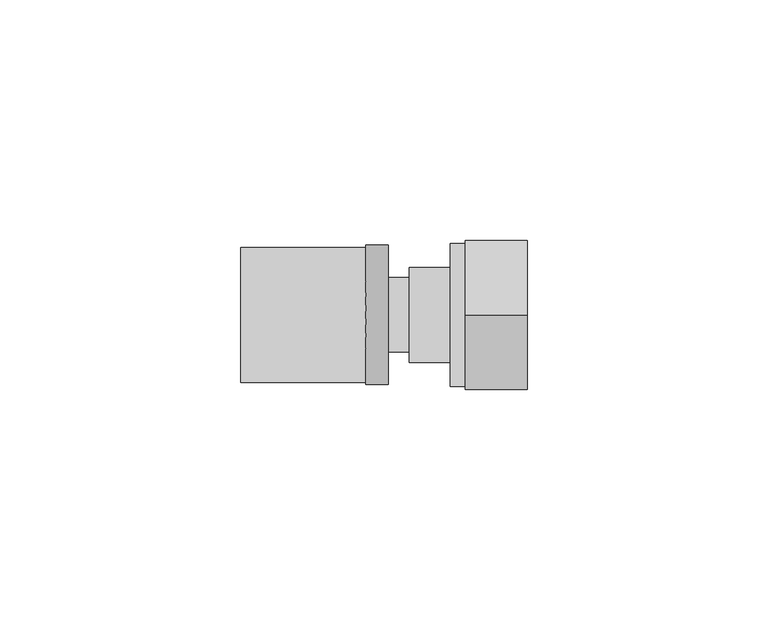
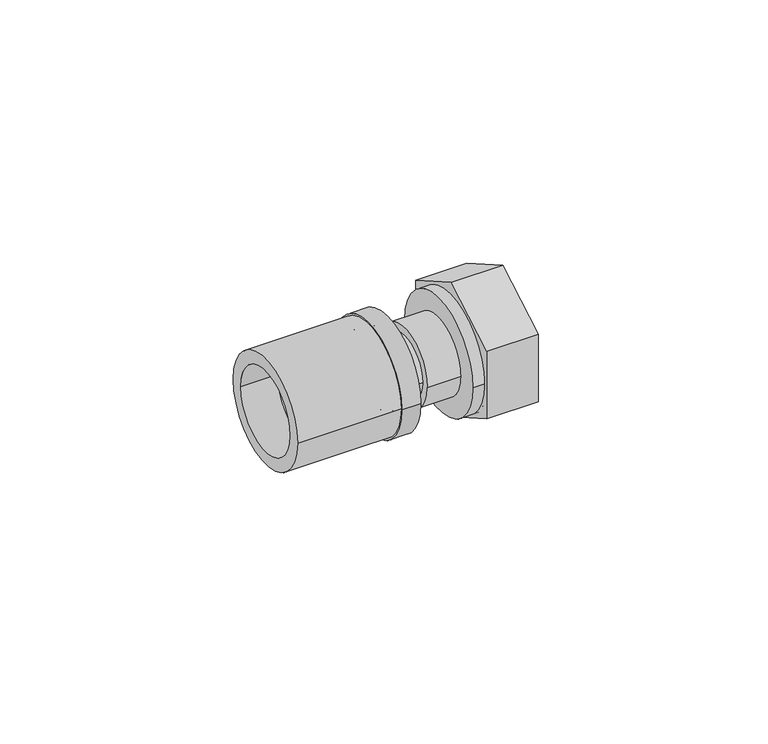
"""IFC4 building model written with IfcOpenShell, lengths in millimetres: pipe fitting geometry, FASTLOC_Adapter with union nut LX : FSL A union nut CZ."""

from ifc_helpers import new_model, si_unit, point, frame, origin, origin_2d, place, context, project, spatial, polyline, circle_curve, trimmed, segment, composite_curve, outline, extrude, source, transform, mapped, element, save
from ifc_brep_helpers import plane_surface, cylinder_surface, revolved_surface, advanced_brep


def pipe_fitting_c8bca06d(model_context):
    return source(origin(), model_context, "Body", "SolidModel", [
        extrude(outline(composite_curve([segment(trimmed(circle_curve(origin_2d(), 14.0), [point((14.0, 0.0))], [point((-14.0, 0.0))], False, "CARTESIAN"), True, "CONTINUOUS"), segment(trimmed(circle_curve(origin_2d(), 14.0), [point((-14.0, 0.0))], [point((14.0, 0.0))], False, "CARTESIAN"), True, "CONTINUOUS")], self_intersect=False), holes=[composite_curve([segment(trimmed(circle_curve(origin_2d(), 10.7), [point((10.7, 0.0))], [point((-10.7, 0.0))], True, "CARTESIAN"), True, "CONTINUOUS"), segment(trimmed(circle_curve(origin_2d(), 10.7), [point((-10.7, 0.0))], [point((10.7, 0.0))], True, "CARTESIAN"), True, "CONTINUOUS")], self_intersect=False)]), frame((-35.0, 0.0, 0.0), z_axis=(1.0, 0.0, 0.0), x_axis=(0.0, 1.0, 0.0)), (0.0, 0.0, 1.0), 26.0),
        advanced_brep(
        [(-9.0, -14.5, 0.0), (-9.0, 14.5, 0.0), (-4.3, 14.5, 0.0), (-4.3, -14.5, 0.0), (-26.0, -11.85, 0.0), (-26.0, 11.85, 0.0), (-9.0, 11.85, 0.0), (-9.0, -11.85, 0.0), (-4.3, -10.15, 0.0), (-4.3, 10.15, 0.0), (-26.0, 10.15, 0.0), (-26.0, -10.15, 0.0)],
        [
            (0, 1, circle_curve(frame((-9.0, 0.0, 0.0), z_axis=(1.0, 0.0, 0.0), x_axis=(0.0, 1.0, 0.0)), 14.5)),
            (1, 2),
            (2, 3, circle_curve(frame((-4.3, 0.0, 0.0), z_axis=(-1.0, 0.0, 0.0), x_axis=(0.0, 1.0, 0.0)), 14.5)),
            (3, 0),
            (4, 5, circle_curve(frame((-26.0, 0.0, 0.0), z_axis=(1.0, 0.0, 0.0), x_axis=(0.0, 1.0, 0.0)), 11.85)),
            (5, 6),
            (6, 7, circle_curve(frame((-9.0, 0.0, 0.0), z_axis=(-1.0, 0.0, 0.0), x_axis=(0.0, 1.0, 0.0)), 11.85)),
            (7, 4),
            (8, 9, circle_curve(frame((-4.3, 0.0, 0.0), z_axis=(1.0, 0.0, 0.0), x_axis=(0.0, 1.0, 0.0)), 10.15)),
            (9, 10),
            (10, 11, circle_curve(frame((-26.0, 0.0, 0.0), z_axis=(-1.0, 0.0, 0.0), x_axis=(0.0, 1.0, 0.0)), 10.15)),
            (11, 8),
            (1, 0, circle_curve(frame((-9.0, 0.0, 0.0), z_axis=(1.0, 0.0, 0.0), x_axis=(0.0, -1.0, 0.0)), 14.5)),
            (3, 2, circle_curve(frame((-4.3, 0.0, 0.0), z_axis=(-1.0, 0.0, 0.0), x_axis=(0.0, -1.0, 0.0)), 14.5)),
            (6, 7, circle_curve(frame((-9.0, 0.0, 0.0), z_axis=(1.0, 0.0, 0.0), x_axis=(0.0, -1.0, 0.0)), 11.85)),
            (5, 4, circle_curve(frame((-26.0, 0.0, 0.0), z_axis=(1.0, 0.0, 0.0), x_axis=(0.0, -1.0, 0.0)), 11.85)),
            (10, 11, circle_curve(frame((-26.0, 0.0, 0.0), z_axis=(1.0, 0.0, 0.0), x_axis=(0.0, -1.0, 0.0)), 10.15)),
            (9, 8, circle_curve(frame((-4.3, 0.0, 0.0), z_axis=(1.0, 0.0, 0.0), x_axis=(0.0, -1.0, 0.0)), 10.15)),
        ],
        [
            cylinder_surface(frame((-4.3, 0.0, 0.0), z_axis=(-1.0, 0.0, 0.0), x_axis=(0.0, 1.0, 0.0)), 14.5),
            cylinder_surface(frame((-4.3, 0.0, 0.0), z_axis=(-1.0, 0.0, 0.0), x_axis=(0.0, 1.0, 0.0)), 11.85),
            revolved_surface(polyline([(-26.0, 10.15, 0.0), (-4.3, 10.15, 0.0)]), (-4.3, 0.0, 0.0), (-1.0, 0.0, 0.0)),
            cylinder_surface(frame((-4.3, 0.0, 0.0), z_axis=(-1.0, 0.0, 0.0), x_axis=(0.0, -1.0, 0.0)), 14.5),
            plane_surface(frame((-9.0, 0.0, 0.0), z_axis=(-1.0, 0.0, 0.0), x_axis=(0.0, -1.0, 0.0))),
            cylinder_surface(frame((-4.3, 0.0, 0.0), z_axis=(-1.0, 0.0, 0.0), x_axis=(0.0, -1.0, 0.0)), 11.85),
            plane_surface(frame((-26.0, 0.0, 0.0), z_axis=(-1.0, 0.0, 0.0), x_axis=(0.0, -1.0, 0.0))),
            revolved_surface(polyline([(-26.0, -10.15, 0.0), (-4.3, -10.15, 0.0)]), (-4.3, 0.0, 0.0), (-1.0, 0.0, 0.0)),
            plane_surface(frame((-4.3, 0.0, 0.0), z_axis=(1.0, 0.0, 0.0), x_axis=(0.0, -1.0, 0.0))),
        ],
        [
            (0, [[1, 2, 3, 4]]),
            (1, [[5, 6, 7, 8]]),
            (2, [[9, 10, 11, 12]]),
            (3, [[13, -4, 14, -2]]),
            (4, [[-13, -1], [15, -7]]),
            (5, [[16, -8, -15, -6]]),
            (6, [[-16, -5], [17, -11]]),
            (7, [[18, -12, -17, -10]]),
            (8, [[-14, -3], [-18, -9]]),
        ],
    ),
        advanced_brep(
        [(-9.0, 7.75, 0.0), (-9.0, -7.75, 0.0), (-26.5, -7.75, 0.0), (-26.5, 7.75, 0.0), (-6.3, 8.8, 0.0), (-6.3, -8.8, 0.0), (-9.0, -8.8, 0.0), (-9.0, 8.8, 0.0), (0.0, 7.75, 0.0), (0.0, -7.75, 0.0), (-6.3, -7.75, 0.0), (-6.3, 7.75, 0.0), (-26.5, 5.75, 0.0), (-26.5, -5.75, 0.0), (0.0, -5.75, 0.0), (0.0, 5.75, 0.0)],
        [
            (0, 1, circle_curve(frame((-9.0, 0.0, 0.0), z_axis=(-1.0, 0.0, 0.0), x_axis=(0.0, -1.0, 0.0)), 7.75)),
            (1, 2),
            (2, 3, circle_curve(frame((-26.5, 0.0, 0.0), z_axis=(1.0, 0.0, 0.0), x_axis=(0.0, -1.0, 0.0)), 7.75)),
            (3, 0),
            (4, 5, circle_curve(frame((-6.3, 0.0, 0.0), z_axis=(-1.0, 0.0, 0.0), x_axis=(0.0, -1.0, 0.0)), 8.8)),
            (5, 6),
            (6, 7, circle_curve(frame((-9.0, 0.0, 0.0), z_axis=(1.0, 0.0, 0.0), x_axis=(0.0, -1.0, 0.0)), 8.8)),
            (7, 4),
            (8, 9, circle_curve(frame((0.0, 0.0, 0.0), z_axis=(-1.0, 0.0, 0.0), x_axis=(0.0, -1.0, 0.0)), 7.75)),
            (9, 10),
            (10, 11, circle_curve(frame((-6.3, 0.0, 0.0), z_axis=(1.0, 0.0, 0.0), x_axis=(0.0, -1.0, 0.0)), 7.75)),
            (11, 8),
            (12, 13, circle_curve(frame((-26.5, 0.0, 0.0), z_axis=(-1.0, 0.0, 0.0), x_axis=(0.0, -1.0, 0.0)), 5.75)),
            (13, 14),
            (14, 15, circle_curve(frame((0.0, 0.0, 0.0), z_axis=(1.0, 0.0, 0.0), x_axis=(0.0, -1.0, 0.0)), 5.75)),
            (15, 12),
            (2, 3, circle_curve(frame((-26.5, 0.0, 0.0), z_axis=(-1.0, 0.0, 0.0), x_axis=(0.0, 1.0, 0.0)), 7.75)),
            (12, 13, circle_curve(frame((-26.5, 0.0, 0.0), z_axis=(1.0, 0.0, 0.0), x_axis=(0.0, 1.0, 0.0)), 5.75)),
            (1, 0, circle_curve(frame((-9.0, 0.0, 0.0), z_axis=(-1.0, 0.0, 0.0), x_axis=(0.0, 1.0, 0.0)), 7.75)),
            (6, 7, circle_curve(frame((-9.0, 0.0, 0.0), z_axis=(-1.0, 0.0, 0.0), x_axis=(0.0, 1.0, 0.0)), 8.8)),
            (5, 4, circle_curve(frame((-6.3, 0.0, 0.0), z_axis=(-1.0, 0.0, 0.0), x_axis=(0.0, 1.0, 0.0)), 8.8)),
            (10, 11, circle_curve(frame((-6.3, 0.0, 0.0), z_axis=(-1.0, 0.0, 0.0), x_axis=(0.0, 1.0, 0.0)), 7.75)),
            (9, 8, circle_curve(frame((0.0, 0.0, 0.0), z_axis=(-1.0, 0.0, 0.0), x_axis=(0.0, 1.0, 0.0)), 7.75)),
            (14, 15, circle_curve(frame((0.0, 0.0, 0.0), z_axis=(-1.0, 0.0, 0.0), x_axis=(0.0, 1.0, 0.0)), 5.75)),
        ],
        [
            cylinder_surface(frame((0.0, 0.0, 0.0), z_axis=(1.0, 0.0, 0.0), x_axis=(0.0, -1.0, 0.0)), 7.75),
            cylinder_surface(frame((0.0, 0.0, 0.0), z_axis=(1.0, 0.0, 0.0), x_axis=(0.0, -1.0, 0.0)), 8.8),
            revolved_surface(polyline([(0.0, -5.75, 0.0), (-26.5, -5.75, 0.0)]), (0.0, 0.0, 0.0), (1.0, 0.0, 0.0)),
            plane_surface(frame((-26.5, 0.0, 0.0), z_axis=(-1.0, 0.0, 0.0), x_axis=(0.0, 1.0, 0.0))),
            cylinder_surface(frame((0.0, 0.0, 0.0), z_axis=(1.0, 0.0, 0.0), x_axis=(0.0, 1.0, 0.0)), 7.75),
            plane_surface(frame((-9.0, 0.0, 0.0), z_axis=(-1.0, 0.0, 0.0), x_axis=(0.0, 1.0, 0.0))),
            cylinder_surface(frame((0.0, 0.0, 0.0), z_axis=(1.0, 0.0, 0.0), x_axis=(0.0, 1.0, 0.0)), 8.8),
            plane_surface(frame((-6.3, 0.0, 0.0), z_axis=(1.0, 0.0, 0.0), x_axis=(0.0, 1.0, 0.0))),
            plane_surface(frame((0.0, 0.0, 0.0), z_axis=(1.0, 0.0, 0.0), x_axis=(0.0, 1.0, 0.0))),
            revolved_surface(polyline([(0.0, 5.75, 0.0), (-26.5, 5.75, 0.0)]), (0.0, 0.0, 0.0), (1.0, 0.0, 0.0)),
        ],
        [
            (0, [[1, 2, 3, 4]]),
            (1, [[5, 6, 7, 8]]),
            (0, [[9, 10, 11, 12]]),
            (2, [[13, 14, 15, 16]]),
            (3, [[17, -3], [18, -13]]),
            (4, [[19, -4, -17, -2]]),
            (5, [[20, -7], [-19, -1]]),
            (6, [[21, -8, -20, -6]]),
            (7, [[-21, -5], [22, -11]]),
            (4, [[23, -12, -22, -10]]),
            (8, [[-23, -9], [24, -15]]),
            (9, [[-18, -16, -24, -14]]),
        ],
    ),
        extrude(outline(polyline([(0.0, -17.8978583), (-15.5, -8.9489292), (-15.5, 8.9489292), (0.0, 17.8978583), (15.5, 8.9489292), (15.5, -8.9489292), (0.0, -17.8978583)]), holes=[composite_curve([segment(trimmed(circle_curve(origin_2d(), 12.0), [point((-12.0, 0.0))], [point((12.0, 0.0))], True, "CARTESIAN"), True, "CONTINUOUS"), segment(trimmed(circle_curve(origin_2d(), 12.0), [point((12.0, 0.0))], [point((-12.0, 0.0))], True, "CARTESIAN"), True, "CONTINUOUS")], self_intersect=False)]), frame((11.7, 0.0, 0.0), z_axis=(1.0, 0.0, 0.0), x_axis=(0.0, 1.0, 0.0)), (0.0, 0.0, 1.0), 12.9),
        advanced_brep(
        [(24.6, 14.9, 0.0), (24.6, -14.9, 0.0), (8.6, -14.9, 0.0), (8.6, 14.9, 0.0), (12.1, 12.0, 0.0), (12.1, -12.0, 0.0), (24.6, -12.0, 0.0), (24.6, 12.0, 0.0), (8.6, 8.5, 0.0), (8.6, -8.5, 0.0), (12.1, -8.5, 0.0), (12.1, 8.5, 0.0)],
        [
            (0, 1, circle_curve(frame((24.6, 0.0, 0.0), z_axis=(-1.0, 0.0, 0.0), x_axis=(0.0, -1.0, 0.0)), 14.9)),
            (1, 2),
            (2, 3, circle_curve(frame((8.6, 0.0, 0.0), z_axis=(1.0, 0.0, 0.0), x_axis=(0.0, -1.0, 0.0)), 14.9)),
            (3, 0),
            (4, 5, circle_curve(frame((12.1, 0.0, 0.0), z_axis=(-1.0, 0.0, 0.0), x_axis=(0.0, -1.0, 0.0)), 12.0)),
            (5, 6),
            (6, 7, circle_curve(frame((24.6, 0.0, 0.0), z_axis=(1.0, 0.0, 0.0), x_axis=(0.0, -1.0, 0.0)), 12.0)),
            (7, 4),
            (8, 9, circle_curve(frame((8.6, 0.0, 0.0), z_axis=(-1.0, 0.0, 0.0), x_axis=(0.0, -1.0, 0.0)), 8.5)),
            (9, 10),
            (10, 11, circle_curve(frame((12.1, 0.0, 0.0), z_axis=(1.0, 0.0, 0.0), x_axis=(0.0, -1.0, 0.0)), 8.5)),
            (11, 8),
            (1, 0, circle_curve(frame((24.6, 0.0, 0.0), z_axis=(-1.0, 0.0, 0.0), x_axis=(0.0, 1.0, 0.0)), 14.9)),
            (3, 2, circle_curve(frame((8.6, 0.0, 0.0), z_axis=(1.0, 0.0, 0.0), x_axis=(0.0, 1.0, 0.0)), 14.9)),
            (6, 7, circle_curve(frame((24.6, 0.0, 0.0), z_axis=(-1.0, 0.0, 0.0), x_axis=(0.0, 1.0, 0.0)), 12.0)),
            (5, 4, circle_curve(frame((12.1, 0.0, 0.0), z_axis=(-1.0, 0.0, 0.0), x_axis=(0.0, 1.0, 0.0)), 12.0)),
            (10, 11, circle_curve(frame((12.1, 0.0, 0.0), z_axis=(-1.0, 0.0, 0.0), x_axis=(0.0, 1.0, 0.0)), 8.5)),
            (9, 8, circle_curve(frame((8.6, 0.0, 0.0), z_axis=(-1.0, 0.0, 0.0), x_axis=(0.0, 1.0, 0.0)), 8.5)),
        ],
        [
            cylinder_surface(frame((0.0, 0.0, 0.0), z_axis=(1.0, 0.0, 0.0), x_axis=(0.0, -1.0, 0.0)), 14.9),
            revolved_surface(polyline([(24.6, -12.0, 0.0), (12.1, -12.0, 0.0)]), (0.0, 0.0, 0.0), (1.0, 0.0, 0.0)),
            revolved_surface(polyline([(12.1, -8.5, 0.0), (8.6, -8.5, 0.0)]), (0.0, 0.0, 0.0), (1.0, 0.0, 0.0)),
            cylinder_surface(frame((0.0, 0.0, 0.0), z_axis=(1.0, 0.0, 0.0), x_axis=(0.0, 1.0, 0.0)), 14.9),
            plane_surface(frame((24.6, 0.0, 0.0), z_axis=(1.0, 0.0, 0.0), x_axis=(0.0, 1.0, 0.0))),
            revolved_surface(polyline([(24.6, 12.0, 0.0), (12.1, 12.0, 0.0)]), (0.0, 0.0, 0.0), (1.0, 0.0, 0.0)),
            plane_surface(frame((12.1, 0.0, 0.0), z_axis=(1.0, 0.0, 0.0), x_axis=(0.0, 1.0, 0.0))),
            revolved_surface(polyline([(12.1, 8.5, 0.0), (8.6, 8.5, 0.0)]), (0.0, 0.0, 0.0), (1.0, 0.0, 0.0)),
            plane_surface(frame((8.6, 0.0, 0.0), z_axis=(-1.0, 0.0, 0.0), x_axis=(0.0, 1.0, 0.0))),
        ],
        [
            (0, [[1, 2, 3, 4]]),
            (1, [[5, 6, 7, 8]]),
            (2, [[9, 10, 11, 12]]),
            (3, [[13, -4, 14, -2]]),
            (4, [[-13, -1], [15, -7]]),
            (5, [[16, -8, -15, -6]]),
            (6, [[-16, -5], [17, -11]]),
            (7, [[18, -12, -17, -10]]),
            (8, [[-14, -3], [-18, -9]]),
        ],
    ),
        advanced_brep(
        [(12.0, 9.9, 0.0), (12.0, -9.9, 0.0), (0.0, -9.9, 0.0), (0.0, 9.9, 0.0), (14.0, 14.0, 0.0), (14.0, -14.0, 0.0), (12.0, -14.0, 0.0), (12.0, 14.0, 0.0), (1.4730817, 8.15, 0.0), (1.4730817, -8.15, 0.0), (14.0, -8.15, 0.0), (14.0, 8.15, 0.0), (0.0, 5.9764556, 0.0), (0.0, -5.9764556, 0.0), (1.4730817, -5.9764556, 0.0), (1.4730817, 5.9764556, 0.0)],
        [
            (0, 1, circle_curve(frame((12.0, 0.0, 0.0), z_axis=(-1.0, 0.0, 0.0), x_axis=(0.0, -1.0, 0.0)), 9.9)),
            (1, 2),
            (2, 3, circle_curve(frame((0.0, 0.0, 0.0), z_axis=(1.0, 0.0, 0.0), x_axis=(0.0, -1.0, 0.0)), 9.9)),
            (3, 0),
            (4, 5, circle_curve(frame((14.0, 0.0, 0.0), z_axis=(-1.0, 0.0, 0.0), x_axis=(0.0, -1.0, 0.0)), 14.0)),
            (5, 6),
            (6, 7, circle_curve(frame((12.0, 0.0, 0.0), z_axis=(1.0, 0.0, 0.0), x_axis=(0.0, -1.0, 0.0)), 14.0)),
            (7, 4),
            (8, 9, circle_curve(frame((1.4730817, 0.0, 0.0), z_axis=(-1.0, 0.0, 0.0), x_axis=(0.0, -1.0, 0.0)), 8.15)),
            (9, 10),
            (10, 11, circle_curve(frame((14.0, 0.0, 0.0), z_axis=(1.0, 0.0, 0.0), x_axis=(0.0, -1.0, 0.0)), 8.15)),
            (11, 8),
            (12, 13, circle_curve(frame((0.0, 0.0, 0.0), z_axis=(-1.0, 0.0, 0.0), x_axis=(0.0, -1.0, 0.0)), 5.9764556)),
            (13, 14),
            (14, 15, circle_curve(frame((1.4730817, 0.0, 0.0), z_axis=(1.0, 0.0, 0.0), x_axis=(0.0, -1.0, 0.0)), 5.9764556)),
            (15, 12),
            (2, 3, circle_curve(frame((0.0, 0.0, 0.0), z_axis=(-1.0, 0.0, 0.0), x_axis=(0.0, 1.0, 0.0)), 9.9)),
            (12, 13, circle_curve(frame((0.0, 0.0, 0.0), z_axis=(1.0, 0.0, 0.0), x_axis=(0.0, 1.0, 0.0)), 5.9764556)),
            (1, 0, circle_curve(frame((12.0, 0.0, 0.0), z_axis=(-1.0, 0.0, 0.0), x_axis=(0.0, 1.0, 0.0)), 9.9)),
            (6, 7, circle_curve(frame((12.0, 0.0, 0.0), z_axis=(-1.0, 0.0, 0.0), x_axis=(0.0, 1.0, 0.0)), 14.0)),
            (5, 4, circle_curve(frame((14.0, 0.0, 0.0), z_axis=(-1.0, 0.0, 0.0), x_axis=(0.0, 1.0, 0.0)), 14.0)),
            (10, 11, circle_curve(frame((14.0, 0.0, 0.0), z_axis=(-1.0, 0.0, 0.0), x_axis=(0.0, 1.0, 0.0)), 8.15)),
            (9, 8, circle_curve(frame((1.4730817, 0.0, 0.0), z_axis=(-1.0, 0.0, 0.0), x_axis=(0.0, 1.0, 0.0)), 8.15)),
            (14, 15, circle_curve(frame((1.4730817, 0.0, 0.0), z_axis=(-1.0, 0.0, 0.0), x_axis=(0.0, 1.0, 0.0)), 5.9764556)),
        ],
        [
            cylinder_surface(frame((0.0, 0.0, 0.0), z_axis=(1.0, 0.0, 0.0), x_axis=(0.0, -1.0, 0.0)), 9.9),
            cylinder_surface(frame((0.0, 0.0, 0.0), z_axis=(1.0, 0.0, 0.0), x_axis=(0.0, -1.0, 0.0)), 14.0),
            revolved_surface(polyline([(14.0, -8.15, 0.0), (1.4730817, -8.15, 0.0)]), (0.0, 0.0, 0.0), (1.0, 0.0, 0.0)),
            revolved_surface(polyline([(1.4730817, -5.9764556, 0.0), (0.0, -5.9764556, 0.0)]), (0.0, 0.0, 0.0), (1.0, 0.0, 0.0)),
            plane_surface(frame((0.0, 0.0, 0.0), z_axis=(-1.0, 0.0, 0.0), x_axis=(0.0, 1.0, 0.0))),
            cylinder_surface(frame((0.0, 0.0, 0.0), z_axis=(1.0, 0.0, 0.0), x_axis=(0.0, 1.0, 0.0)), 9.9),
            plane_surface(frame((12.0, 0.0, 0.0), z_axis=(-1.0, 0.0, 0.0), x_axis=(0.0, 1.0, 0.0))),
            cylinder_surface(frame((0.0, 0.0, 0.0), z_axis=(1.0, 0.0, 0.0), x_axis=(0.0, 1.0, 0.0)), 14.0),
            plane_surface(frame((14.0, 0.0, 0.0), z_axis=(1.0, 0.0, 0.0), x_axis=(0.0, 1.0, 0.0))),
            revolved_surface(polyline([(14.0, 8.15, 0.0), (1.4730817, 8.15, 0.0)]), (0.0, 0.0, 0.0), (1.0, 0.0, 0.0)),
            plane_surface(frame((1.4730817, 0.0, 0.0), z_axis=(1.0, 0.0, 0.0), x_axis=(0.0, 1.0, 0.0))),
            revolved_surface(polyline([(1.4730817, 5.9764556, 0.0), (0.0, 5.9764556, 0.0)]), (0.0, 0.0, 0.0), (1.0, 0.0, 0.0)),
        ],
        [
            (0, [[1, 2, 3, 4]]),
            (1, [[5, 6, 7, 8]]),
            (2, [[9, 10, 11, 12]]),
            (3, [[13, 14, 15, 16]]),
            (4, [[17, -3], [18, -13]]),
            (5, [[19, -4, -17, -2]]),
            (6, [[20, -7], [-19, -1]]),
            (7, [[21, -8, -20, -6]]),
            (8, [[-21, -5], [22, -11]]),
            (9, [[23, -12, -22, -10]]),
            (10, [[-23, -9], [24, -15]]),
            (11, [[-18, -16, -24, -14]]),
        ],
    ),
    ])


if __name__ == "__main__":
    model = new_model("IFC4")
    model_context = context("Model", 3, world=origin())
    ifc_project = project(units=[si_unit("LENGTHUNIT", "METRE", prefix="MILLI")], contexts=[model_context])
    site = spatial("IfcSite", under=ifc_project)
    building = spatial("IfcBuilding", under=site)
    placement = place(None, origin())
    pipe_fitting_shape = pipe_fitting_c8bca06d(model_context)
    element("IfcPipeFitting", 1, ObjectType="FASTLOC_Adapter with union nut LX : FSL A union nut CZ", at=placement, inside=building, context=model_context, shape_type="MappedRepresentation", body=[
        mapped(pipe_fitting_shape, transform((0.0, 0.0, 0.0), x_axis=(1.0, 0.0, 0.0), y_axis=(0.0, 1.0, 0.0), z_axis=(0.0, 0.0, 1.0))),
    ])
    save(model, "model.ifc")
